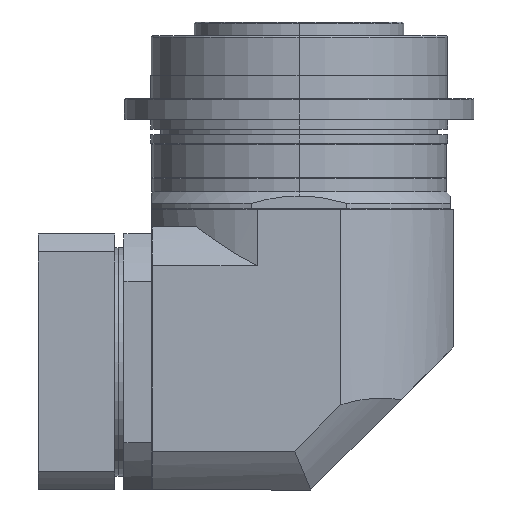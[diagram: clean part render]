
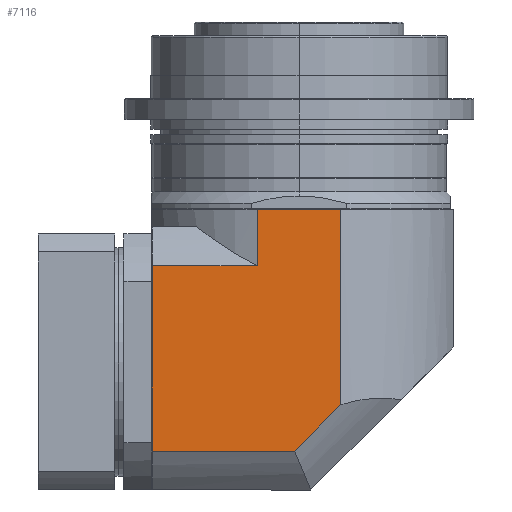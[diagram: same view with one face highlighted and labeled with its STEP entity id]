
A CAD part, left-side view. The second image highlights one B-rep face of the part: STEP entity #7116.
In plain terms, the highlighted planar face has unit normal (-1, 0, 0).
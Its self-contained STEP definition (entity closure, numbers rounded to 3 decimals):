
#246 = DIRECTION ( 'NONE',  ( 0., -1., 0. ) ) ;
#647 = CARTESIAN_POINT ( 'NONE',  ( -133., 126.5, -125.401 ) ) ;
#663 = CARTESIAN_POINT ( 'NONE',  ( -133., 126., -125.401 ) ) ;
#827 = EDGE_LOOP ( 'NONE', ( #6215, #5801, #4798, #3888, #1982, #3418, #1105 ) ) ;
#1105 = ORIENTED_EDGE ( 'NONE', *, *, #1517, .F. ) ;
#1228 = DIRECTION ( 'NONE',  ( 0., 0., 1. ) ) ;
#1249 = VERTEX_POINT ( 'NONE', #5245 ) ;
#1368 = VECTOR ( 'NONE', #5058, 1000. ) ;
#1455 = VERTEX_POINT ( 'NONE', #4824 ) ;
#1517 = EDGE_CURVE ( 'NONE', #1455, #5460, #5926, .T. ) ;
#1537 = LINE ( 'NONE', #647, #4864 ) ;
#1569 = VECTOR ( 'NONE', #5395, 1000. ) ;
#1767 = DIRECTION ( 'NONE',  ( -1., 0., 0. ) ) ;
#1872 = VECTOR ( 'NONE', #246, 1000. ) ;
#1876 = DIRECTION ( 'NONE',  ( 0., -1., 0. ) ) ;
#1982 = ORIENTED_EDGE ( 'NONE', *, *, #4599, .T. ) ;
#2208 = CARTESIAN_POINT ( 'NONE',  ( -133., 126., -318. ) ) ;
#2269 = VERTEX_POINT ( 'NONE', #663 ) ;
#2292 = DIRECTION ( 'NONE',  ( 0., -1., 0. ) ) ;
#2548 = LINE ( 'NONE', #2208, #1368 ) ;
#2642 = EDGE_CURVE ( 'NONE', #2269, #3520, #2548, .T. ) ;
#2860 = EDGE_CURVE ( 'NONE', #5460, #1249, #6276, .T. ) ;
#3044 = CARTESIAN_POINT ( 'NONE',  ( -133., 13.618, -294.382 ) ) ;
#3056 = CARTESIAN_POINT ( 'NONE',  ( -133., 126., -284.599 ) ) ;
#3418 = ORIENTED_EDGE ( 'NONE', *, *, #2860, .F. ) ;
#3520 = VERTEX_POINT ( 'NONE', #3056 ) ;
#3609 = DIRECTION ( 'NONE',  ( 0., -0.707, 0.707 ) ) ;
#3653 = CARTESIAN_POINT ( 'NONE',  ( -133., 0., -77. ) ) ;
#3682 = CARTESIAN_POINT ( 'NONE',  ( -133., 126.5, -284.599 ) ) ;
#3863 = CARTESIAN_POINT ( 'NONE',  ( -133., 35.862, -318. ) ) ;
#3888 = ORIENTED_EDGE ( 'NONE', *, *, #4232, .T. ) ;
#4003 = AXIS2_PLACEMENT_3D ( 'NONE', #5780, #1767, #2292 ) ;
#4097 = VECTOR ( 'NONE', #4354, 1000. ) ;
#4232 = EDGE_CURVE ( 'NONE', #6425, #7142, #5624, .T. ) ;
#4256 = CARTESIAN_POINT ( 'NONE',  ( -133., 35.862, -77. ) ) ;
#4354 = DIRECTION ( 'NONE',  ( 0., 0., 1. ) ) ;
#4599 = EDGE_CURVE ( 'NONE', #7142, #1249, #7411, .T. ) ;
#4655 = PLANE ( 'NONE',  #4003 ) ;
#4677 = EDGE_CURVE ( 'NONE', #2269, #1455, #1537, .T. ) ;
#4798 = ORIENTED_EDGE ( 'NONE', *, *, #5445, .T. ) ;
#4824 = CARTESIAN_POINT ( 'NONE',  ( -133., 35.862, -125.401 ) ) ;
#4864 = VECTOR ( 'NONE', #1876, 1000. ) ;
#4932 = LINE ( 'NONE', #3682, #1872 ) ;
#5058 = DIRECTION ( 'NONE',  ( 0., 0., -1. ) ) ;
#5183 = CARTESIAN_POINT ( 'NONE',  ( -133., -35.862, -244.902 ) ) ;
#5245 = CARTESIAN_POINT ( 'NONE',  ( -133., -35.862, -77. ) ) ;
#5395 = DIRECTION ( 'NONE',  ( 0., -1., 0. ) ) ;
#5445 = EDGE_CURVE ( 'NONE', #3520, #6425, #4932, .T. ) ;
#5460 = VERTEX_POINT ( 'NONE', #4256 ) ;
#5468 = FACE_OUTER_BOUND ( 'NONE', #827, .T. ) ;
#5624 = LINE ( 'NONE', #3044, #7324 ) ;
#5780 = CARTESIAN_POINT ( 'NONE',  ( -133., 0., -318. ) ) ;
#5801 = ORIENTED_EDGE ( 'NONE', *, *, #2642, .T. ) ;
#5830 = CARTESIAN_POINT ( 'NONE',  ( -133., -35.862, -318. ) ) ;
#5926 = LINE ( 'NONE', #3863, #4097 ) ;
#5965 = VECTOR ( 'NONE', #1228, 1000. ) ;
#6215 = ORIENTED_EDGE ( 'NONE', *, *, #4677, .F. ) ;
#6276 = LINE ( 'NONE', #3653, #1569 ) ;
#6425 = VERTEX_POINT ( 'NONE', #6911 ) ;
#6911 = CARTESIAN_POINT ( 'NONE',  ( -133., 3.835, -284.599 ) ) ;
#7116 = ADVANCED_FACE ( 'NONE', ( #5468 ), #4655, .T. ) ;
#7142 = VERTEX_POINT ( 'NONE', #5183 ) ;
#7324 = VECTOR ( 'NONE', #3609, 1000. ) ;
#7411 = LINE ( 'NONE', #5830, #5965 ) ;
